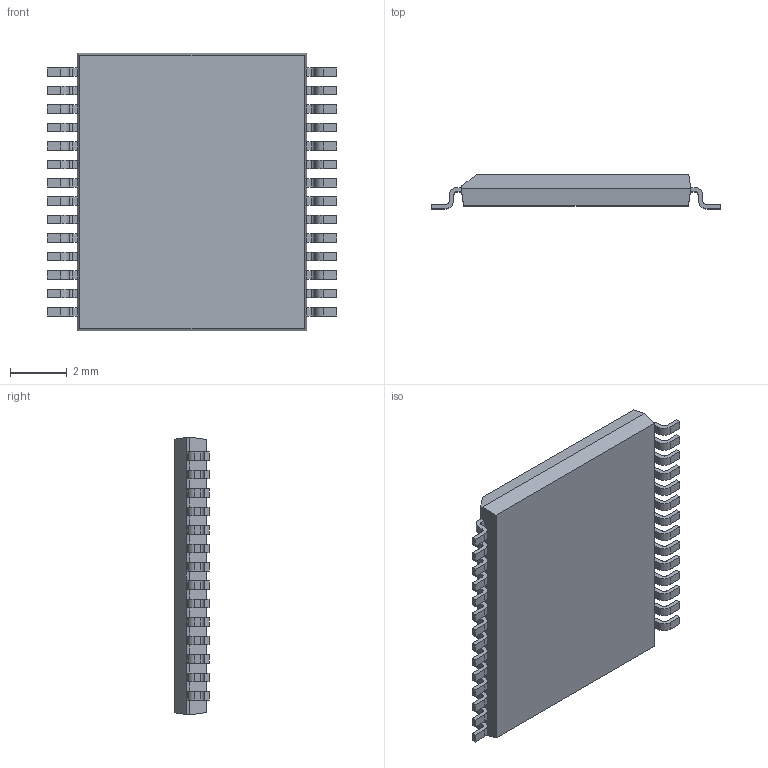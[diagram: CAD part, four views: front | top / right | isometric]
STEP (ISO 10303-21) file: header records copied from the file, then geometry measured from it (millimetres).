
FILE_DESCRIPTION (( 'STEP AP214' ), '1' );
FILE_NAME ('TSOP65P1000X120-28_MO-153.GA.STEP', '2014-10-29T08:18:03', ( 'Tester2' ), ( '' ), 'SwSTEP 2.0', 'SolidWorks 2012', '' );
FILE_SCHEMA (( 'AUTOMOTIVE_DESIGN' ));
Length unit declared in the file: millimetre
Products named in the file (1): TSOP65P1000X120-28_MO-153.GA
Bounding box: 10.2 x 1.2 x 9.8 mm (x, y, z)
Volume: 86.7 mm3; surface area: 227.5 mm2
Topology: 1 solids, 1 shells, 378 faces, 1121 edges, 746 vertices
Faces by surface type: plane 264, cylinder 114
Entity records: 16672 total; most frequent: CARTESIAN_POINT 2246, ORIENTED_EDGE 2242, DIRECTION 2107, EDGE_CURVE 1121, LINE 893, VECTOR 893, VERTEX_POINT 746, AXIS2_PLACEMENT_3D 607
